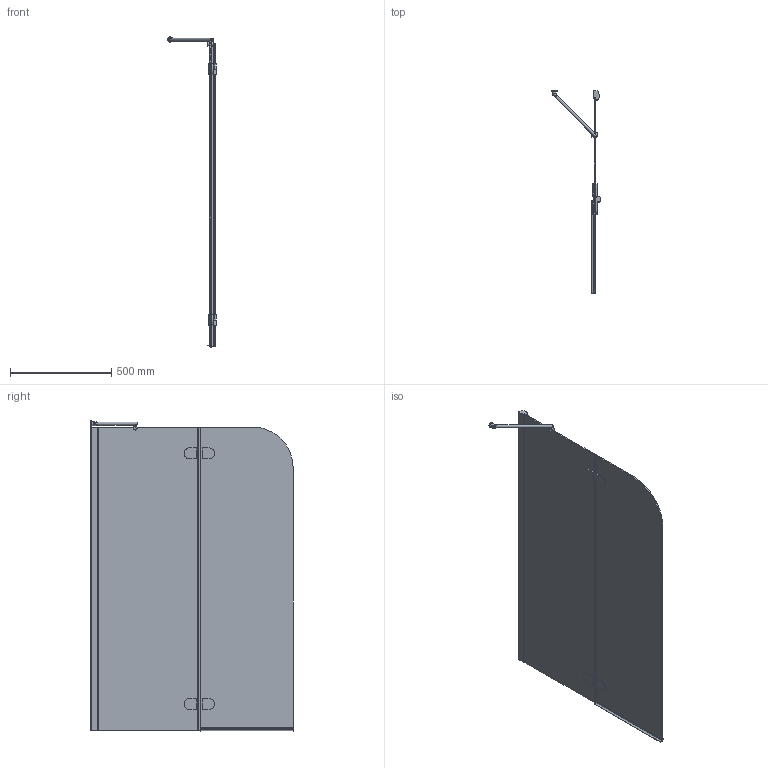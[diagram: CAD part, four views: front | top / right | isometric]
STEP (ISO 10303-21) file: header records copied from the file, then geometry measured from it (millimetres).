
FILE_DESCRIPTION(/* description */ (''),/* implementation_level */ '2;1');
FILE_NAME(/* name */ 'E:\Работа\Сергей\Душевые кабинки\! Работа\LUX PEARL GV-102A\LUX PEARL GV-102A правая модель\LUX PEARL GV-102A ПРАВАЯ-3D.stp',/* time_stamp */ '2017-08-15T20:25:48+03:00',/* author */ ('PC'),/* organization */ (''),/* preprocessor_version */ 'ST-DEVELOPER v15.2',/* originating_system */ 'Autodesk Inventor 2014',/* authorisation */ '');
FILE_SCHEMA (('AUTOMOTIVE_DESIGN { 1 0 10303 214 3 1 1 }'));
Length unit declared in the file: millimetre
Products named in the file (1): LUX PEARL GV-102A ПРАВАЯ-3D
Bounding box: 239.4 x 1000.2 x 1533.89 mm (x, y, z)
Volume: 10525326.6 mm3; surface area: 3211414.4 mm2
Topology: 2 solids, 2 shells, 234 faces, 648 edges, 432 vertices
Faces by surface type: plane 148, cylinder 81, bspline 2, sphere 2, torus 1
Full cylindrical faces by diameter (mm): 12 x1, 15 x1, 20 x2, 26 x1
Entity records: 7869 total; most frequent: CARTESIAN_POINT 1563, ORIENTED_EDGE 1258, DIRECTION 1245, EDGE_CURVE 629, LINE 439, VECTOR 439, VERTEX_POINT 422, AXIS2_PLACEMENT_3D 403
